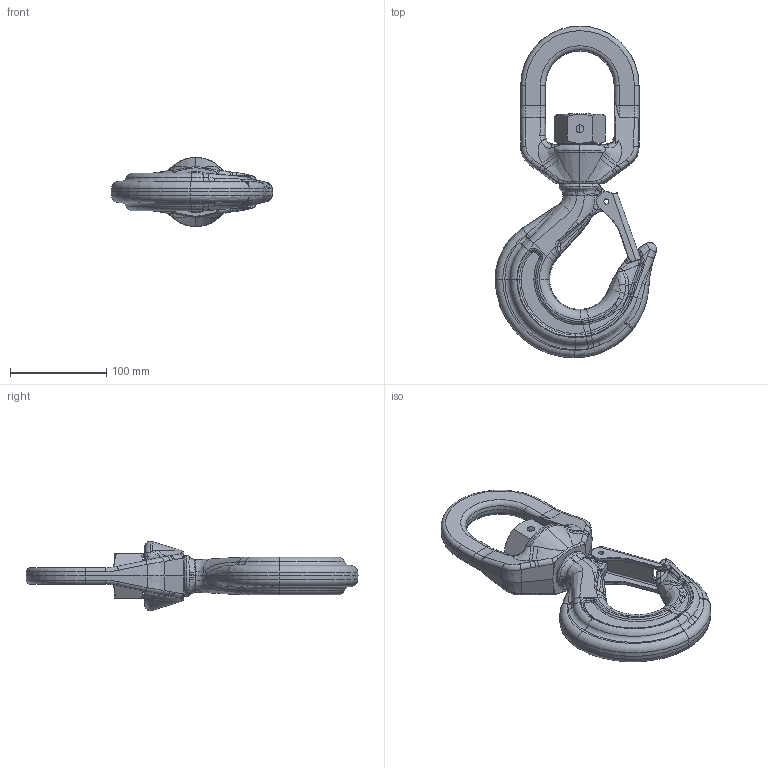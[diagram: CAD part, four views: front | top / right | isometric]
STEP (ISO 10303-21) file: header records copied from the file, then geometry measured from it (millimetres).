
FILE_DESCRIPTION(('STEP AP214'),'1');
FILE_NAME('c7g08.stp','2021-10-13T11:56:53',('TraceParts'),('TraceParts S.A.'),'Spatial InterOp 3D',' ',' ');
FILE_SCHEMA(('AUTOMOTIVE_DESIGN { 1 0 10303 214 1 1 1 1 }'));
Length unit declared in the file: millimetre
Products named in the file (1): c7g08_1
Bounding box: 168 x 345 x 72 mm (x, y, z)
Volume: 814180.8 mm3; surface area: 117171.2 mm2
Topology: 4 solids, 4 shells, 869 faces, 2096 edges, 1230 vertices
Faces by surface type: bspline 381, plane 139, cylinder 136, torus 129, cone 84
Full cylindrical faces by diameter (mm): 8 x2
Entity records: 57677 total; most frequent: CARTESIAN_POINT 39552, ORIENTED_EDGE 4170, DIRECTION 3391, EDGE_CURVE 2085, AXIS2_PLACEMENT_3D 1441, VERTEX_POINT 1230, EDGE_LOOP 887, ADVANCED_FACE 869
